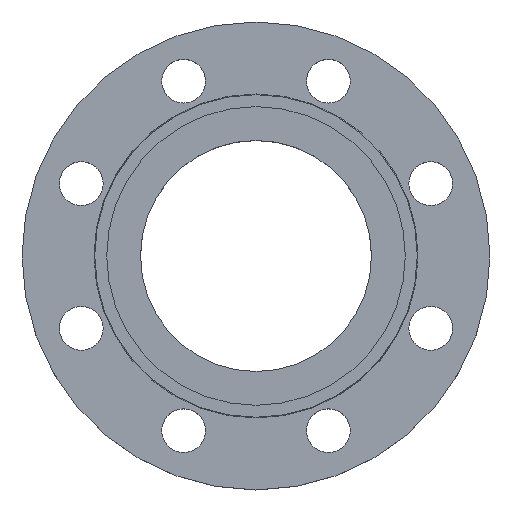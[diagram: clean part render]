
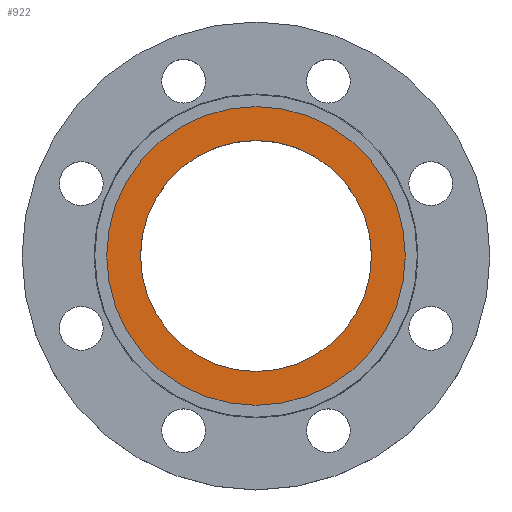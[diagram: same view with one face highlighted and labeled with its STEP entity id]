
A CAD part, top view. The second image highlights one B-rep face of the part: STEP entity #922.
In plain terms, the highlighted planar face has unit normal (0, 0, 1).
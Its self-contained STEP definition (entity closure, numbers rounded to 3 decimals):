
#1 = FACE_BOUND ( 'NONE', #1002, .T. ) ;
#2 = FACE_OUTER_BOUND ( 'NONE', #626, .T. ) ;
#57 = DIRECTION ( 'NONE',  ( -1., 0., 0. ) ) ;
#58 = DIRECTION ( 'NONE',  ( 0., 0., -1. ) ) ;
#60 = CARTESIAN_POINT ( 'NONE',  ( 0., 0., -4.5 ) ) ;
#69 = DIRECTION ( 'NONE',  ( 1., 0., 0. ) ) ;
#70 = DIRECTION ( 'NONE',  ( 0., 0., 1. ) ) ;
#71 = CARTESIAN_POINT ( 'NONE',  ( 75., 0., -4.5 ) ) ;
#72 = PLANE ( 'NONE',  #567 ) ;
#80 = CARTESIAN_POINT ( 'NONE',  ( -75., 0., -4.5 ) ) ;
#89 = CIRCLE ( 'NONE', #573, 75. ) ;
#118 = CIRCLE ( 'NONE', #121, 58. ) ;
#121 = AXIS2_PLACEMENT_3D ( 'NONE', #789, #791, #793 ) ;
#269 = CIRCLE ( 'NONE', #270, 75. ) ;
#270 = AXIS2_PLACEMENT_3D ( 'NONE', #561, #518, #516 ) ;
#371 = EDGE_CURVE ( 'NONE', #629, #677, #118, .T. ) ;
#419 = DIRECTION ( 'NONE',  ( 1., 0., 0. ) ) ;
#420 = DIRECTION ( 'NONE',  ( 0., 0., 1. ) ) ;
#421 = CARTESIAN_POINT ( 'NONE',  ( 0., 0., -4.5 ) ) ;
#422 = CARTESIAN_POINT ( 'NONE',  ( 58., 0., -4.5 ) ) ;
#457 = CARTESIAN_POINT ( 'NONE',  ( 75., 0., -4.5 ) ) ;
#468 = CARTESIAN_POINT ( 'NONE',  ( -58., 0., -4.5 ) ) ;
#511 = AXIS2_PLACEMENT_3D ( 'NONE', #421, #420, #419 ) ;
#516 = DIRECTION ( 'NONE',  ( -1., 0., 0. ) ) ;
#518 = DIRECTION ( 'NONE',  ( 0., 0., -1. ) ) ;
#561 = CARTESIAN_POINT ( 'NONE',  ( 0., 0., -4.5 ) ) ;
#567 = AXIS2_PLACEMENT_3D ( 'NONE', #71, #70, #69 ) ;
#570 = EDGE_CURVE ( 'NONE', #912, #640, #269, .T. ) ;
#573 = AXIS2_PLACEMENT_3D ( 'NONE', #60, #58, #57 ) ;
#581 = CIRCLE ( 'NONE', #511, 58. ) ;
#626 = EDGE_LOOP ( 'NONE', ( #1045, #1046 ) ) ;
#629 = VERTEX_POINT ( 'NONE', #468 ) ;
#640 = VERTEX_POINT ( 'NONE', #457 ) ;
#677 = VERTEX_POINT ( 'NONE', #422 ) ;
#678 = EDGE_CURVE ( 'NONE', #677, #629, #581, .T. ) ;
#789 = CARTESIAN_POINT ( 'NONE',  ( 0., 0., -4.5 ) ) ;
#791 = DIRECTION ( 'NONE',  ( 0., 0., 1. ) ) ;
#793 = DIRECTION ( 'NONE',  ( 1., 0., 0. ) ) ;
#912 = VERTEX_POINT ( 'NONE', #80 ) ;
#922 = ADVANCED_FACE ( 'NONE', ( #1, #2 ), #72, .T. ) ;
#938 = EDGE_CURVE ( 'NONE', #640, #912, #89, .T. ) ;
#1002 = EDGE_LOOP ( 'NONE', ( #1043, #1044 ) ) ;
#1043 = ORIENTED_EDGE ( 'NONE', *, *, #678, .F. ) ;
#1044 = ORIENTED_EDGE ( 'NONE', *, *, #371, .F. ) ;
#1045 = ORIENTED_EDGE ( 'NONE', *, *, #570, .F. ) ;
#1046 = ORIENTED_EDGE ( 'NONE', *, *, #938, .F. ) ;
